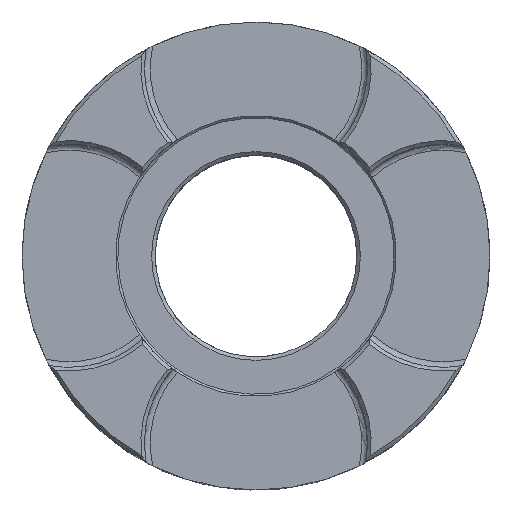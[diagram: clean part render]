
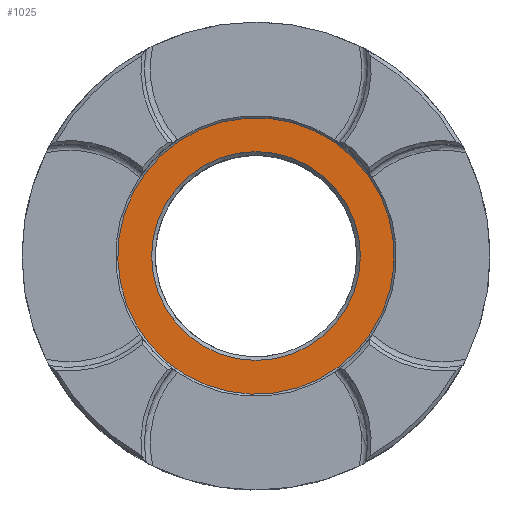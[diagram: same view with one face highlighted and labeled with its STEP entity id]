
A CAD part, top view. The second image highlights one B-rep face of the part: STEP entity #1025.
In plain terms, the highlighted planar face has unit normal (0, 0, 1).
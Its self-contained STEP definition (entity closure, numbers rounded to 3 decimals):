
#28=FACE_BOUND('',#264,.T.);
#169=PLANE('',#1103);
#193=FACE_OUTER_BOUND('',#263,.T.);
#263=EDGE_LOOP('',(#711));
#264=EDGE_LOOP('',(#712));
#341=CIRCLE('',#1102,14.5);
#342=CIRCLE('',#1104,19.2);
#438=VERTEX_POINT('',#1646);
#439=VERTEX_POINT('',#1649);
#543=EDGE_CURVE('',#438,#438,#341,.T.);
#544=EDGE_CURVE('',#439,#439,#342,.T.);
#711=ORIENTED_EDGE('',*,*,#544,.F.);
#712=ORIENTED_EDGE('',*,*,#543,.F.);
#1025=ADVANCED_FACE('',(#193,#28),#169,.T.);
#1102=AXIS2_PLACEMENT_3D('',#1647,#1272,#1273);
#1103=AXIS2_PLACEMENT_3D('',#1648,#1274,#1275);
#1104=AXIS2_PLACEMENT_3D('',#1650,#1276,#1277);
#1272=DIRECTION('center_axis',(0.,0.,1.));
#1273=DIRECTION('ref_axis',(-1.,0.,0.));
#1274=DIRECTION('center_axis',(0.,0.,1.));
#1275=DIRECTION('ref_axis',(1.,0.,0.));
#1276=DIRECTION('center_axis',(0.,0.,-1.));
#1277=DIRECTION('ref_axis',(-0.594,0.805,0.));
#1646=CARTESIAN_POINT('',(18.897,8.965,-0.3));
#1647=CARTESIAN_POINT('Origin',(4.397,8.965,-0.3));
#1648=CARTESIAN_POINT('Origin',(4.397,8.965,-0.3));
#1649=CARTESIAN_POINT('',(15.795,-6.486,-0.3));
#1650=CARTESIAN_POINT('Origin',(4.397,8.965,-0.3));
